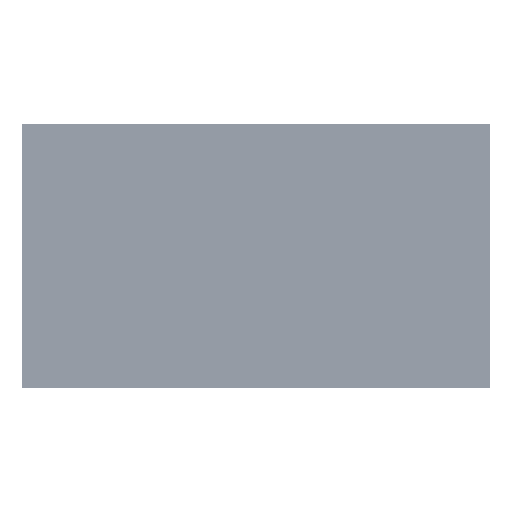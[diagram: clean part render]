
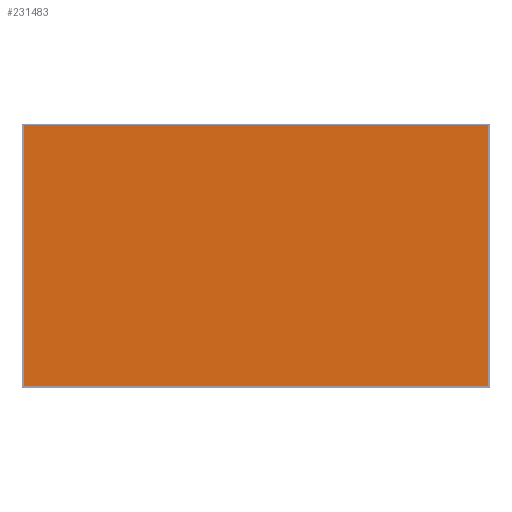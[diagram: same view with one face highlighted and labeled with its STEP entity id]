
A CAD part, top view. The second image highlights one B-rep face of the part: STEP entity #231483.
In plain terms, the highlighted planar face has unit normal (0, 0, 1).
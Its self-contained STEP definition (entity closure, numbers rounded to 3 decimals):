
#10955 = VERTEX_POINT ( 'NONE', #395914 ) ;
#10996 = VERTEX_POINT ( 'NONE', #396377 ) ;
#11007 = VERTEX_POINT ( 'NONE', #396493 ) ;
#11023 = VERTEX_POINT ( 'NONE', #396631 ) ;
#82868 = FACE_OUTER_BOUND ( 'NONE', #327525, .T. ) ;
#123087 = AXIS2_PLACEMENT_3D ( 'NONE', #132225, #132273, #132277 ) ;
#132215 = PLANE ( 'NONE',  #123087 ) ;
#132225 = CARTESIAN_POINT ( 'NONE',  ( 0., 0., 0.912 ) ) ;
#132273 = DIRECTION ( 'NONE',  ( 0., 0., 1. ) ) ;
#132277 = DIRECTION ( 'NONE',  ( 1., 0., 0. ) ) ;
#135097 = EDGE_CURVE ( 'NONE', #11007, #10955, #553874, .T. ) ;
#135114 = EDGE_CURVE ( 'NONE', #10955, #10996, #553915, .T. ) ;
#135124 = EDGE_CURVE ( 'NONE', #10996, #11023, #553897, .T. ) ;
#135137 = EDGE_CURVE ( 'NONE', #11023, #11007, #553954, .T. ) ;
#231483 = ADVANCED_FACE ( 'NONE', ( #82868 ), #132215, .T. ) ;
#327525 = EDGE_LOOP ( 'NONE', ( #456658, #456670, #456679, #456689 ) ) ;
#395914 = CARTESIAN_POINT ( 'NONE',  ( 509.84, -287.135, 0.912 ) ) ;
#396377 = CARTESIAN_POINT ( 'NONE',  ( 509.84, 287.135, 0.912 ) ) ;
#396493 = CARTESIAN_POINT ( 'NONE',  ( -509.84, -287.135, 0.912 ) ) ;
#396631 = CARTESIAN_POINT ( 'NONE',  ( -509.84, 287.135, 0.912 ) ) ;
#456658 = ORIENTED_EDGE ( 'NONE', *, *, #135097, .T. ) ;
#456670 = ORIENTED_EDGE ( 'NONE', *, *, #135114, .T. ) ;
#456679 = ORIENTED_EDGE ( 'NONE', *, *, #135124, .T. ) ;
#456689 = ORIENTED_EDGE ( 'NONE', *, *, #135137, .T. ) ;
#546675 = DIRECTION ( 'NONE',  ( 1., 0., 0. ) ) ;
#546695 = CARTESIAN_POINT ( 'NONE',  ( -509.84, -287.135, 0.912 ) ) ;
#546723 = DIRECTION ( 'NONE',  ( 0., 1., 0. ) ) ;
#546728 = CARTESIAN_POINT ( 'NONE',  ( 509.84, -287.135, 0.912 ) ) ;
#546734 = DIRECTION ( 'NONE',  ( -1., 0., 0. ) ) ;
#546743 = CARTESIAN_POINT ( 'NONE',  ( 509.84, 287.135, 0.912 ) ) ;
#546774 = DIRECTION ( 'NONE',  ( 0., -1., 0. ) ) ;
#546779 = CARTESIAN_POINT ( 'NONE',  ( -509.84, 287.135, 0.912 ) ) ;
#553874 = LINE ( 'NONE', #546695, #553904 ) ;
#553897 = LINE ( 'NONE', #546743, #553984 ) ;
#553904 = VECTOR ( 'NONE', #546675, 1000. ) ;
#553915 = LINE ( 'NONE', #546728, #553944 ) ;
#553944 = VECTOR ( 'NONE', #546723, 1000. ) ;
#553954 = LINE ( 'NONE', #546779, #554022 ) ;
#553984 = VECTOR ( 'NONE', #546734, 1000. ) ;
#554022 = VECTOR ( 'NONE', #546774, 1000. ) ;
